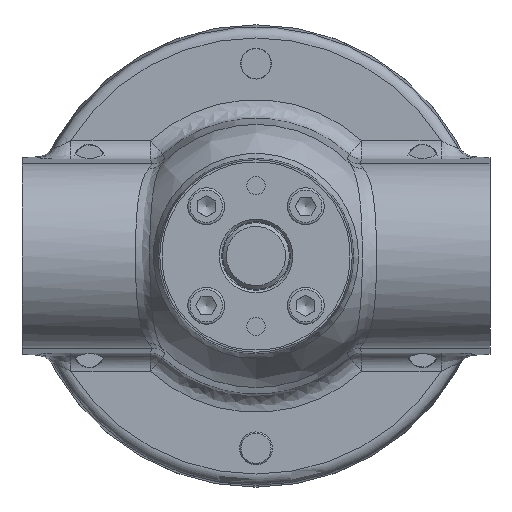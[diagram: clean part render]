
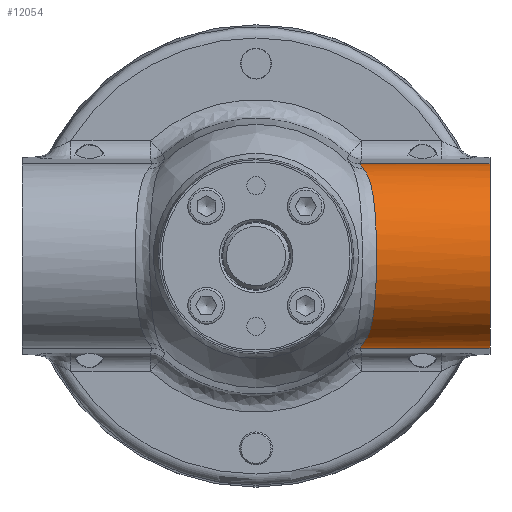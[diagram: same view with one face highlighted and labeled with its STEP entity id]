
A CAD part, left-side view. The second image highlights one B-rep face of the part: STEP entity #12054.
In plain terms, the highlighted cylindrical face has radius 24.924 mm (diameter 49.849 mm), a partial arc.
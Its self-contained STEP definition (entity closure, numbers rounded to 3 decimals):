
#8975=CARTESIAN_POINT('',(-42.304,-28.047,24.89));
#8976=VERTEX_POINT('',#8975);
#8984=CARTESIAN_POINT('',(-42.304,-63.25,24.89));
#8985=VERTEX_POINT('',#8984);
#8986=CARTESIAN_POINT('',(-42.304,-63.25,24.89));
#8987=DIRECTION('',(0.0,1.0,0.0));
#8988=VECTOR('',#8987,35.203);
#8989=LINE('',#8986,#8988);
#8990=EDGE_CURVE('',#8985,#8976,#8989,.T.);
#9839=CARTESIAN_POINT('',(-42.304,-63.25,-24.89));
#9840=VERTEX_POINT('',#9839);
#9841=CARTESIAN_POINT('',(-41.,-63.25,0.));
#9842=DIRECTION('',(0.0,1.0,0.0));
#9843=DIRECTION('',(-1.0,0.0,0.0));
#9844=AXIS2_PLACEMENT_3D('',#9841,#9842,#9843);
#9845=CIRCLE('',#9844,24.924);
#9846=EDGE_CURVE('',#9840,#8985,#9845,.T.);
#11677=CARTESIAN_POINT('',(-42.304,-28.047,-24.89));
#11678=VERTEX_POINT('',#11677);
#11734=CARTESIAN_POINT('',(-48.856,-28.975,-23.654));
#11735=VERTEX_POINT('',#11734);
#11745=CARTESIAN_POINT('',(-42.304,-28.047,-24.89));
#11746=CARTESIAN_POINT('',(-42.945,-28.031,-24.857));
#11747=CARTESIAN_POINT('',(-44.228,-28.063,-24.739));
#11748=CARTESIAN_POINT('',(-46.435,-28.335,-24.364));
#11749=CARTESIAN_POINT('',(-47.967,-28.706,-23.949));
#11750=CARTESIAN_POINT('',(-48.856,-28.975,-23.654));
#11751=B_SPLINE_CURVE_WITH_KNOTS('',3,(#11745,#11746,#11747,#11748,#11749,#11750),.UNSPECIFIED.,.F.,.U.,(4,1,1,4),(0.,0.231,0.462,0.809),.UNSPECIFIED.);
#11752=EDGE_CURVE('',#11678,#11735,#11751,.T.);
#11914=CARTESIAN_POINT('',(-48.856,-28.975,23.654));
#11915=VERTEX_POINT('',#11914);
#11925=CARTESIAN_POINT('',(-48.856,-28.975,-23.654));
#11926=CARTESIAN_POINT('',(-50.229,-29.39,-23.198));
#11927=CARTESIAN_POINT('',(-52.936,-30.146,-22.032));
#11928=CARTESIAN_POINT('',(-56.038,-30.885,-19.973));
#11929=CARTESIAN_POINT('',(-58.256,-31.356,-18.03));
#11930=CARTESIAN_POINT('',(-59.803,-31.659,-16.411));
#11931=CARTESIAN_POINT('',(-61.203,-31.909,-14.655));
#11932=CARTESIAN_POINT('',(-62.576,-32.134,-12.568));
#11933=CARTESIAN_POINT('',(-63.83,-32.318,-10.149));
#11934=CARTESIAN_POINT('',(-64.882,-32.456,-7.341));
#11935=CARTESIAN_POINT('',(-65.469,-32.525,-4.918));
#11936=CARTESIAN_POINT('',(-65.763,-32.558,-2.956));
#11937=CARTESIAN_POINT('',(-65.941,-32.577,-0.97));
#11938=CARTESIAN_POINT('',(-65.937,-32.577,1.528));
#11939=CARTESIAN_POINT('',(-65.519,-32.531,4.978));
#11940=CARTESIAN_POINT('',(-64.647,-32.428,8.122));
#11941=CARTESIAN_POINT('',(-63.474,-32.267,10.853));
#11942=CARTESIAN_POINT('',(-62.053,-32.054,13.489));
#11943=CARTESIAN_POINT('',(-60.28,-31.752,15.917));
#11944=CARTESIAN_POINT('',(-58.233,-31.352,18.052));
#11945=CARTESIAN_POINT('',(-56.837,-31.055,19.271));
#11946=CARTESIAN_POINT('',(-55.662,-30.789,20.165));
#11947=CARTESIAN_POINT('',(-54.453,-30.504,21.004));
#11948=CARTESIAN_POINT('',(-52.252,-29.955,22.325));
#11949=CARTESIAN_POINT('',(-50.229,-29.39,23.198));
#11950=CARTESIAN_POINT('',(-48.856,-28.975,23.654));
#11951=B_SPLINE_CURVE_WITH_KNOTS('',3,(#11925,#11926,#11927,#11928,#11929,#11930,#11931,#11932,#11933,#11934,#11935,#11936,#11937,#11938,#11939,#11940,#11941,#11942,#11943,#11944,#11945,#11946,#11947,#11948,#11949,#11950),.UNSPECIFIED.,.F.,.U.,(4,1,1,1,1,1,1,1,1,1,1,1,1,1,1,1,1,1,1,1,1,1,1,4),(-7.5,-6.965,-6.429,-6.161,-5.893,-5.625,-5.357,-5.,-4.643,-4.286,-4.107,-3.929,-3.572,-3.214,-2.679,-2.411,-2.143,-1.607,-1.339,-1.071,-0.938,-0.804,-0.536,0.0),.UNSPECIFIED.);
#11952=EDGE_CURVE('',#11735,#11915,#11951,.T.);
#11997=CARTESIAN_POINT('',(-48.856,-28.975,23.654));
#11998=CARTESIAN_POINT('',(-47.967,-28.706,23.949));
#11999=CARTESIAN_POINT('',(-45.823,-28.187,24.53));
#12000=CARTESIAN_POINT('',(-43.587,-28.015,24.823));
#12001=CARTESIAN_POINT('',(-42.304,-28.047,24.89));
#12002=B_SPLINE_CURVE_WITH_KNOTS('',3,(#11997,#11998,#11999,#12000,#12001),.UNSPECIFIED.,.F.,.U.,(4,1,4),(0.,0.347,0.809),.UNSPECIFIED.);
#12003=EDGE_CURVE('',#11915,#8976,#12002,.T.);
#12036=CARTESIAN_POINT('',(-41.,0.,0.));
#12037=DIRECTION('',(0.,-1.0,0.));
#12038=DIRECTION('',(-1.0,0.0,0.0));
#12039=AXIS2_PLACEMENT_3D('',#12036,#12037,#12038);
#12040=CYLINDRICAL_SURFACE('',#12039,24.924);
#12041=ORIENTED_EDGE('',*,*,#12003,.F.);
#12042=ORIENTED_EDGE('',*,*,#11952,.F.);
#12043=ORIENTED_EDGE('',*,*,#11752,.F.);
#12044=CARTESIAN_POINT('',(-42.304,-28.047,-24.89));
#12045=DIRECTION('',(0.0,-1.0,0.0));
#12046=VECTOR('',#12045,35.203);
#12047=LINE('',#12044,#12046);
#12048=EDGE_CURVE('',#11678,#9840,#12047,.T.);
#12049=ORIENTED_EDGE('',*,*,#12048,.T.);
#12050=ORIENTED_EDGE('',*,*,#9846,.T.);
#12051=ORIENTED_EDGE('',*,*,#8990,.T.);
#12052=EDGE_LOOP('',(#12041,#12042,#12043,#12049,#12050,#12051));
#12053=FACE_OUTER_BOUND('',#12052,.T.);
#12054=ADVANCED_FACE('',(#12053),#12040,.T.);
